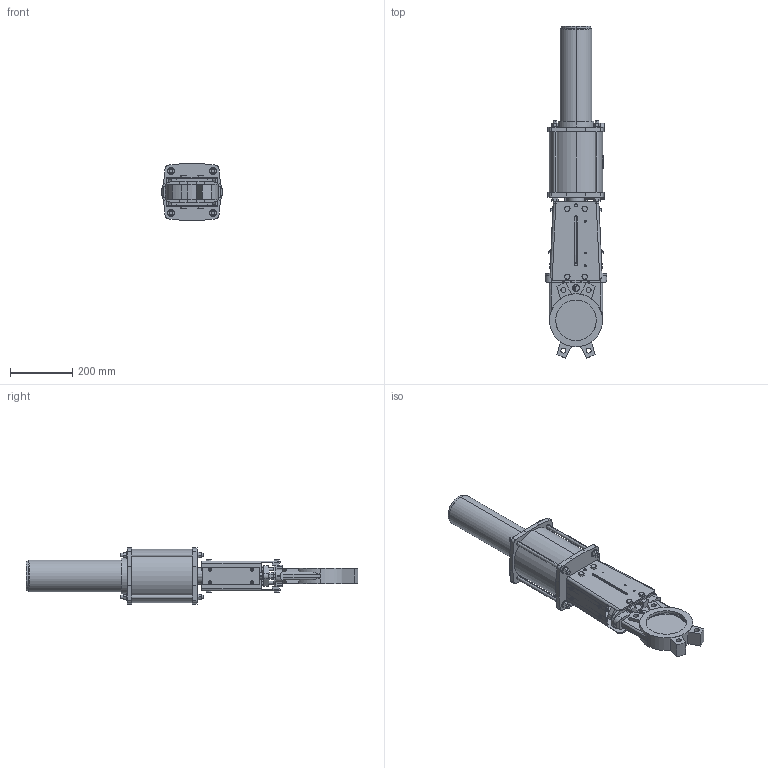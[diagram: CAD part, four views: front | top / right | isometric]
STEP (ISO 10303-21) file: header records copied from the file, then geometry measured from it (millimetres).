
FILE_DESCRIPTION (( 'STEP AP203' ), '1' );
FILE_NAME ('VG P N DN125.STEP', '2010-03-31T03:08:51', ( 'farex' ), ( '' ), 'SwSTEP 2.0', 'SolidWorks 2009', '' );
FILE_SCHEMA (( 'CONFIG_CONTROL_DESIGN' ));
Length unit declared in the file: millimetre
Products named in the file (1): VG P N DN125
Bounding box: 198 x 1063.03 x 182 mm (x, y, z)
Volume: 4364362.5 mm3; surface area: 1099874.9 mm2
Topology: 4 solids, 24 shells, 1101 faces, 2756 edges, 1802 vertices
Faces by surface type: plane 625, cylinder 353, cone 87, bspline 24, torus 12
Entity records: 34887 total; most frequent: CARTESIAN_POINT 8121, ORIENTED_EDGE 5512, DIRECTION 5500, EDGE_CURVE 2756, AXIS2_PLACEMENT_3D 1899, VERTEX_POINT 1802, LINE 1702, VECTOR 1702
